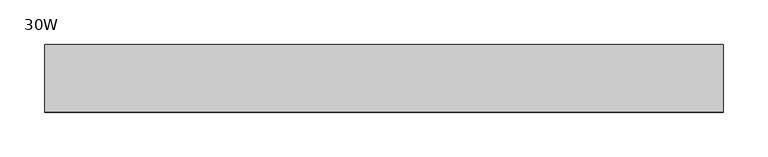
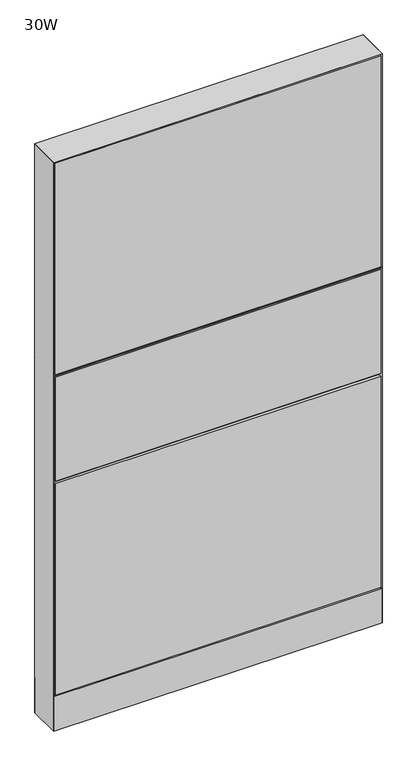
"""IFC4 building model written with IfcOpenShell, lengths in millimetres: furniture geometry, Steelcase - Montage - Frame - 55H - Enhanced Monolithic - Base Cavity : 30W."""

from ifc_helpers import new_model, si_unit, point, frame, frame_2d, origin, origin_with_axes, place, context, project, spatial, polyline, circle_curve, trimmed, segment, composite_curve, outline, extrude, faceted_brep, source, transform, mapped, element, save


def furniture_30w_b30efa1d(model_context):
    return source(origin(), model_context, "Body", "SolidModel", [
        extrude(outline(polyline([(758.825, 31.7500194), (3.175, 31.7500194), (3.175, 38.1000194), (758.825, 38.1000194), (758.825, 31.7500194)])), frame((0.0, 0.0, 877.8875), z_axis=(0.0, 0.0, 1.0), x_axis=(1.0, 0.0, 0.0)), (0.0, 0.0, 1.0), 517.525),
        faceted_brep([(762.0, 38.1026297, 874.7125), (0.0, 38.1026297, 874.7125), (6.3499953, 31.7526299, 881.0624997), (755.6500083, 31.7526299, 881.0624997), (755.6500083, 31.7526299, 868.3625003), (6.3499953, 31.7526299, 868.3625003)], [[[0, 1, 2, 3]], [[1, 0, 4, 5]], [[3, 2, 5, 4]], [[0, 3, 4]], [[2, 1, 5]]]),
        extrude(outline(polyline([(758.825, 31.7500194), (3.175, 31.7500194), (3.175, 38.1000194), (758.825, 38.1000194), (758.825, 31.7500194)])), frame((0.0, 0.0, 615.95), z_axis=(0.0, 0.0, 1.0), x_axis=(1.0, 0.0, 0.0)), (0.0, 0.0, 1.0), 255.5875),
        extrude(outline(polyline([(758.825, 31.7500194), (3.175, 31.7500194), (3.175, 38.1000194), (758.825, 38.1000194), (758.825, 31.7500194)])), frame((0.0, 0.0, 92.075), z_axis=(0.0, 0.0, 1.0), x_axis=(1.0, 0.0, 0.0)), (0.0, 0.0, 1.0), 517.525),
        extrude(outline(polyline([(3.175, 31.7500194), (3.175, 38.1000194), (758.825, 38.1000194), (758.825, 31.7500194), (3.175, 31.7500194)])), frame((0.0, 0.0, 877.8875), z_axis=(0.0, 0.0, 1.0), x_axis=(1.0, 0.0, 0.0)), (0.0, 0.0, 1.0), 517.525),
        faceted_brep([(-5.4e-06, 38.102627, 874.7125027), (6.3499917, 31.7526299, 881.0624997), (755.6500047, 31.7526299, 881.0624997), (762.0, 38.1026253, 874.7125044), (755.6500047, 31.7526299, 868.3625003), (6.3499917, 31.7526299, 868.3625003)], [[[0, 1, 2, 3]], [[3, 4, 5, 0]], [[1, 5, 4, 2]], [[0, 5, 1]], [[2, 4, 3]]]),
        extrude(outline(polyline([(3.175, 31.7500194), (3.175, 38.1000194), (758.825, 38.1000194), (758.825, 31.7500194), (3.175, 31.7500194)])), frame((0.0, 0.0, 615.95), z_axis=(0.0, 0.0, 1.0), x_axis=(1.0, 0.0, 0.0)), (0.0, 0.0, 1.0), 255.5875),
        extrude(outline(polyline([(3.175, 31.7500194), (3.175, 38.1000194), (758.825, 38.1000194), (758.825, 31.7500194), (3.175, 31.7500194)])), frame((0.0, 0.0, 92.075), z_axis=(0.0, 0.0, 1.0), x_axis=(1.0, 0.0, 0.0)), (0.0, 0.0, 1.0), 517.525),
        extrude(outline(polyline([(3.175, -31.7500194), (758.825, -31.7500194), (758.825, -38.1000194), (3.175, -38.1000194), (3.175, -31.7500194)])), frame((0.0, 0.0, 877.8875), z_axis=(0.0, 0.0, 1.0), x_axis=(1.0, 0.0, 0.0)), (0.0, 0.0, 1.0), 517.525),
        faceted_brep([(755.6500047, -31.7526299, 881.0624997), (762.0, -38.1026253, 874.7125044), (755.6500047, -31.7526299, 868.3625003), (0.0, -38.1026297, 874.7125), (6.3499917, -31.7526299, 881.0624997), (6.3499917, -31.7526299, 868.3625003)], [[[0, 1, 2]], [[3, 1, 0, 4]], [[1, 3, 5, 2]], [[4, 0, 2, 5]], [[3, 4, 5]]]),
        extrude(outline(polyline([(3.175, -31.7500194), (758.825, -31.7500194), (758.825, -38.1000194), (3.175, -38.1000194), (3.175, -31.7500194)])), frame((0.0, 0.0, 615.95), z_axis=(0.0, 0.0, 1.0), x_axis=(1.0, 0.0, 0.0)), (0.0, 0.0, 1.0), 255.5875),
        extrude(outline(polyline([(3.175, -31.7500194), (758.825, -31.7500194), (758.825, -38.1000194), (3.175, -38.1000194), (3.175, -31.7500194)])), frame((0.0, 0.0, 92.075), z_axis=(0.0, 0.0, 1.0), x_axis=(1.0, 0.0, 0.0)), (0.0, 0.0, 1.0), 517.525),
        extrude(outline(polyline([(6.350003, -31.7499985), (755.649997, -31.7499985), (762.0, -38.1000015), (0.0, -38.1000015), (6.350003, -31.7499985)])), frame((0.0, 0.0, 4.064), z_axis=(0.0, 0.0, 1.0), x_axis=(1.0, 0.0, 0.0)), (0.0, 0.0, 1.0), 84.835997),
        extrude(outline(polyline([(6.3500002, 31.7500017), (0.0, 38.1000015), (762.0, 38.1000015), (755.6500002, 31.7500017), (6.3500002, 31.7500017)])), frame((0.0, 0.0, 4.064), z_axis=(0.0, 0.0, 1.0), x_axis=(1.0, 0.0, 0.0)), (0.0, 0.0, 1.0), 84.835997),
        faceted_brep([(762.0, -38.1000015, 1398.5875), (0.0, -38.1000015, 1398.5875), (6.3500484, -31.749953, 1392.2374516), (755.6499516, -31.749953, 1392.2374516), (6.3500484, 31.749953, 1392.2374516), (755.6499516, 31.749953, 1392.2374516), (0.0, 38.1000015, 1398.5875), (762.0, 38.1000015, 1398.5875)], [[[0, 1, 2, 3]], [[3, 2, 4, 5]], [[6, 7, 5, 4]], [[1, 0, 7, 6]], [[2, 1, 6, 4]], [[0, 3, 5, 7]]]),
        extrude(outline(composite_curve([segment(trimmed(circle_curve(frame_2d((44.45, 0.0)), 15.24), [point((29.21, 0.0))], [point((59.69, 0.0))], False, "CARTESIAN"), True, "CONTINUOUS"), segment(trimmed(circle_curve(frame_2d((44.45, 0.0)), 15.24), [point((59.69, 0.0))], [point((29.21, 0.0))], False, "CARTESIAN"), True, "CONTINUOUS")], self_intersect=False)), origin_with_axes(), (0.0, 0.0, 1.0), 4.064),
        extrude(outline(composite_curve([segment(trimmed(circle_curve(frame_2d((717.55, 0.0)), 15.24), [point((702.31, 0.0))], [point((732.79, 0.0))], False, "CARTESIAN"), True, "CONTINUOUS"), segment(trimmed(circle_curve(frame_2d((717.55, 0.0)), 15.24), [point((732.79, 0.0))], [point((702.31, 0.0))], False, "CARTESIAN"), True, "CONTINUOUS")], self_intersect=False)), origin_with_axes(), (0.0, 0.0, 1.0), 4.064),
        faceted_brep([(762.0, -38.1000106, 4.064), (762.0, 38.1000015, 4.064), (762.0, 38.1000015, 1398.5875), (762.0, -38.1000106, 1398.5874637), (0.0, 38.1000015, 4.064), (0.0, -38.1000015, 4.064), (0.0, -38.1000015, 1398.5875), (0.0, 38.1000015, 1398.5875), (755.6499879, 31.7500017, 606.425), (6.35, 31.7500017, 606.425), (6.3499998, 31.7500017, 619.125), (755.6499879, 31.7500017, 619.125), (6.35, -31.7499985, 619.125), (755.6499879, -31.7499985, 619.125), (6.350003, -31.7499985, 606.425), (755.6499879, -31.7499985, 606.425), (6.35, 31.7500015, 4.064), (6.35, -31.7500015, 4.064), (755.6499879, 31.7499894, 4.064), (755.6499879, -31.7499985, 4.064), (6.35, 31.7500015, 1392.2375), (6.35, -31.7500015, 1392.2375), (755.6499879, -31.7499985, 1392.2374516), (755.6499879, 31.7499895, 1392.2374516)], [[[0, 1, 2, 3]], [[4, 5, 6, 7]], [[8, 9, 10, 11]], [[11, 10, 12, 13]], [[13, 12, 14, 15]], [[9, 8, 15, 14]], [[16, 17, 5, 4]], [[18, 1, 0, 19]], [[16, 4, 7, 20, 10, 9]], [[5, 17, 14, 12, 21, 6]], [[12, 10, 20, 21]], [[17, 16, 9, 14]], [[11, 13, 22, 23]], [[18, 19, 15, 8]], [[19, 0, 3, 22, 13, 15]], [[1, 18, 8, 11, 23, 2]], [[7, 6, 21, 20]], [[3, 2, 23, 22]]]),
    ])


if __name__ == "__main__":
    model = new_model("IFC4")
    model_context = context("Model", 3, world=origin())
    ifc_project = project(units=[si_unit("LENGTHUNIT", "METRE", prefix="MILLI")], contexts=[model_context])
    site = spatial("IfcSite", under=ifc_project)
    building = spatial("IfcBuilding", under=site)
    placement = place(None, origin())
    furniture_30w_shape = furniture_30w_b30efa1d(model_context)
    element("IfcFurniture", 1, ObjectType="Steelcase - Montage - Frame - 55H - Enhanced Monolithic - Base Cavity : 30W", at=placement, inside=building, context=model_context, shape_type="MappedRepresentation", body=[
        mapped(furniture_30w_shape, transform((0.0, 0.0, 0.0), x_axis=(1.0, 0.0, 0.0), y_axis=(0.0, 1.0, 0.0), z_axis=(0.0, 0.0, 1.0))),
    ])
    save(model, "model.ifc")
